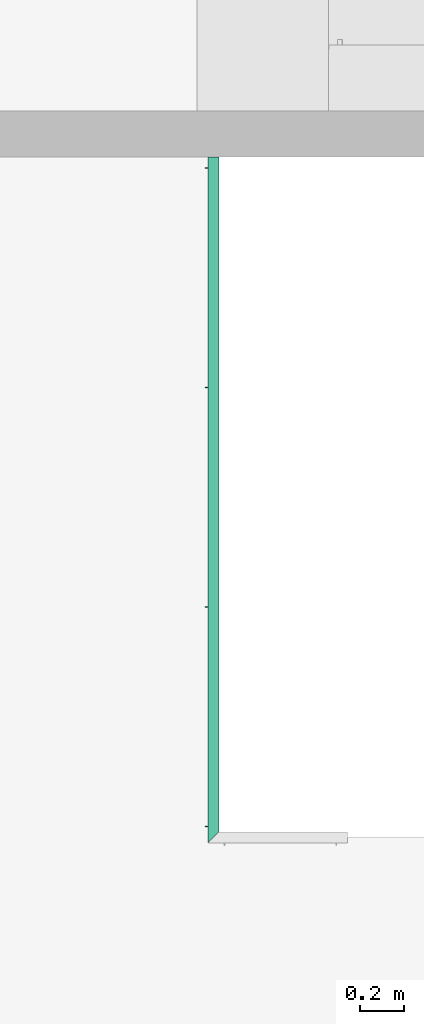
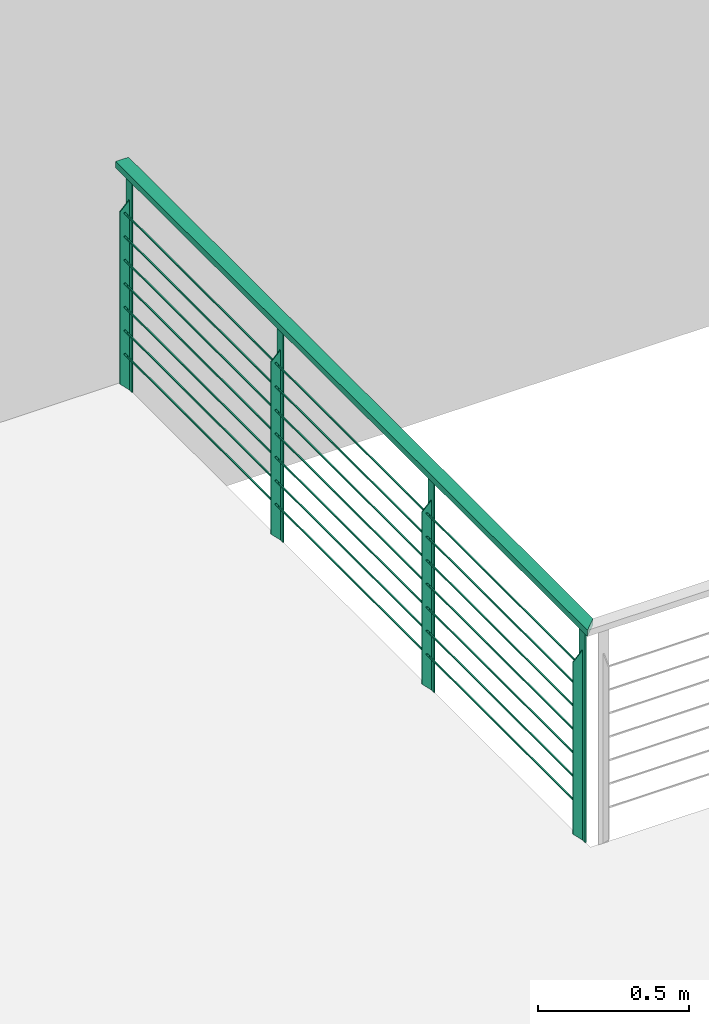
# One storey, part 19 of 26: 1 distribution element.
"""IFC2X3 building model written with IfcOpenShell, lengths in millimetres."""

from ifc_helpers import new_model, entity, si_unit, converted_unit, money_unit, direction, frame, origin_with_axes, place, context, subcontext, project, spatial, faceted_brep, material, type_object, element, save


model = new_model("IFC2X3")

# Units and contexts
model_context = context("Model", 3, precision=1e-05, world=origin_with_axes(), true_north=direction((0.0, 1.0)))
body_context = subcontext(model_context, "Body", "Model", "MODEL_VIEW")
ifc_project = project(units=[si_unit("LENGTHUNIT", "METRE", prefix="MILLI"), si_unit("AREAUNIT", "SQUARE_METRE"), si_unit("VOLUMEUNIT", "CUBIC_METRE"), converted_unit("PLANEANGLEUNIT", "DEGREE", entity("IfcPlaneAngleMeasure", 0.0174532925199), si_unit("PLANEANGLEUNIT", "RADIAN"), dimensions=[0, 0, 0, 0, 0, 0, 0]), si_unit("SOLIDANGLEUNIT", "STERADIAN"), money_unit("USD"), converted_unit("TIMEUNIT", "Year", entity("IfcTimeMeasure", 31556926.0), si_unit("TIMEUNIT", "SECOND"), dimensions=[0, 0, 0, 0, 0, 0, 0]), si_unit("MASSUNIT", "GRAM"), si_unit("THERMODYNAMICTEMPERATUREUNIT", "DEGREE_CELSIUS"), si_unit("LUMINOUSINTENSITYUNIT", "LUMEN")], contexts=[model_context])

# Site, building, storey
site_placement = place(None, origin_with_axes())
site = spatial("IfcSite", under=ifc_project, at=site_placement, Name="Grove Residential", CompositionType="ELEMENT")
building_placement = place(site_placement, origin_with_axes())
building = spatial("IfcBuilding", under=site, at=building_placement, Name="Building", CompositionType="ELEMENT")
storey_placement = place(building_placement, origin_with_axes())
storey = spatial("IfcBuildingStorey", under=building, at=storey_placement, Name="Ground Floor", CompositionType="ELEMENT", Elevation=0.0)

# Distribution element
ifc_material = material(Name="Background")
distribution_element_type = type_object("IfcDistributionElementType", Name="Rail Wired 02 20")
distribution_element_placement = place(storey_placement, frame((3674.99991575, 6850.0, 0.0), z_axis=(0.0, 0.0, 1.0), x_axis=(0.0, -1.0, 0.0)))
element("IfcDistributionElement", 1, at=distribution_element_placement, inside=storey, type_object=distribution_element_type, material=ifc_material, Name="FU - 001", context=body_context, shape_type="Brep", body=[
    faceted_brep([(0.0, 25.0, 875.0), (0.0, -25.0, 875.0), (0.0, -25.0, 900.0), (0.0, 25.0, 900.0), (3075.00003278, 25.0, 875.0), (3125.00003278, -25.0, 875.0), (3125.00003278, -25.0, 875.0), (3125.00003278, -25.0, 900.0), (3125.00003278, -25.0, 900.0), (3075.00003278, 25.0, 900.0)], [[[0, 1, 2, 3]], [[0, 4, 5, 6, 1]], [[1, 6, 7, 2]], [[3, 2, 7, 8, 9]], [[4, 0, 3, 9]], [[5, 4, 9, 8]], [[6, 5, 8, 7]]]),
    faceted_brep([(30.0, -2.0, 0.0), (70.0, -2.0, 0.0), (70.0, -2.0, 871.0), (30.0, -2.0, 871.0), (30.0, 2.0, 0.0), (70.0, 2.0, 0.0), (70.0, 2.0, 871.0), (30.0, 2.0, 871.0)], [[[0, 1, 2, 3]], [[0, 4, 5, 1]], [[1, 5, 6, 2]], [[3, 2, 6, 7]], [[4, 0, 3, 7]], [[5, 4, 7, 6]]]),
    faceted_brep([(52.0, -38.0, 36.0), (52.0, -38.0, 731.0), (48.0, -38.0, 731.0), (48.0, -38.0, 36.0), (52.0, -2.0, 0.0), (52.0, -2.0, 767.0), (48.0, -2.0, 767.0), (48.0, -2.0, 0.0)], [[[0, 1, 2, 3]], [[0, 4, 5, 1]], [[1, 5, 6, 2]], [[3, 2, 6, 7]], [[4, 0, 3, 7]], [[5, 4, 7, 6]]]),
    faceted_brep([(1030.00001093, -2.0, 0.0), (1070.00001093, -2.0, 0.0), (1070.00001093, -2.0, 871.0), (1030.00001093, -2.0, 871.0), (1030.00001093, 2.0, 0.0), (1070.00001093, 2.0, 0.0), (1070.00001093, 2.0, 871.0), (1030.00001093, 2.0, 871.0)], [[[0, 1, 2, 3]], [[0, 4, 5, 1]], [[1, 5, 6, 2]], [[3, 2, 6, 7]], [[4, 0, 3, 7]], [[5, 4, 7, 6]]]),
    faceted_brep([(1052.00001093, -38.0, 36.0), (1052.00001093, -38.0, 731.0), (1048.00001093, -38.0, 731.0), (1048.00001093, -38.0, 36.0), (1052.00001093, -2.0, 0.0), (1052.00001093, -2.0, 767.0), (1048.00001093, -2.0, 767.0), (1048.00001093, -2.0, 0.0)], [[[0, 1, 2, 3]], [[0, 4, 5, 1]], [[1, 5, 6, 2]], [[3, 2, 6, 7]], [[4, 0, 3, 7]], [[5, 4, 7, 6]]]),
    faceted_brep([(2030.00002186, -2.0, 0.0), (2070.00002186, -2.0, 0.0), (2070.00002186, -2.0, 871.0), (2030.00002186, -2.0, 871.0), (2030.00002186, 2.0, 0.0), (2070.00002186, 2.0, 0.0), (2070.00002186, 2.0, 871.0), (2030.00002186, 2.0, 871.0)], [[[0, 1, 2, 3]], [[0, 4, 5, 1]], [[1, 5, 6, 2]], [[3, 2, 6, 7]], [[4, 0, 3, 7]], [[5, 4, 7, 6]]]),
    faceted_brep([(2052.00002186, -38.0, 36.0), (2052.00002186, -38.0, 731.0), (2048.00002186, -38.0, 731.0), (2048.00002186, -38.0, 36.0), (2052.00002186, -2.0, 0.0), (2052.00002186, -2.0, 767.0), (2048.00002186, -2.0, 767.0), (2048.00002186, -2.0, 0.0)], [[[0, 1, 2, 3]], [[0, 4, 5, 1]], [[1, 5, 6, 2]], [[3, 2, 6, 7]], [[4, 0, 3, 7]], [[5, 4, 7, 6]]]),
    faceted_brep([(3030.00003278, -2.0, 0.0), (3070.00003278, -2.0, 0.0), (3070.00003278, -2.0, 871.0), (3030.00003278, -2.0, 871.0), (3030.00003278, 2.0, 0.0), (3070.00003278, 2.0, 0.0), (3070.00003278, 2.0, 871.0), (3030.00003278, 2.0, 871.0)], [[[0, 1, 2, 3]], [[0, 4, 5, 1]], [[1, 5, 6, 2]], [[3, 2, 6, 7]], [[4, 0, 3, 7]], [[5, 4, 7, 6]]]),
    faceted_brep([(3052.00003278, -38.0, 36.0), (3052.00003278, -38.0, 731.0), (3048.00003278, -38.0, 731.0), (3048.00003278, -38.0, 36.0), (3052.00003278, -2.0, 0.0), (3052.00003278, -2.0, 767.0), (3048.00003278, -2.0, 767.0), (3048.00003278, -2.0, 0.0)], [[[0, 1, 2, 3]], [[0, 4, 5, 1]], [[1, 5, 6, 2]], [[3, 2, 6, 7]], [[4, 0, 3, 7]], [[5, 4, 7, 6]]]),
    faceted_brep([(20.0, -15.0, 871.0), (80.0, -15.0, 871.0), (80.0, -15.0, 875.0), (20.0, -15.0, 875.0), (20.0, 15.0, 871.0), (80.0, 15.0, 871.0), (80.0, 15.0, 875.0), (20.0, 15.0, 875.0)], [[[0, 1, 2, 3]], [[0, 4, 5, 1]], [[1, 5, 6, 2]], [[3, 2, 6, 7]], [[4, 0, 3, 7]], [[5, 4, 7, 6]]]),
    faceted_brep([(1020.00001093, -15.0, 871.0), (1080.00001093, -15.0, 871.0), (1080.00001093, -15.0, 875.0), (1020.00001093, -15.0, 875.0), (1020.00001093, 15.0, 871.0), (1080.00001093, 15.0, 871.0), (1080.00001093, 15.0, 875.0), (1020.00001093, 15.0, 875.0)], [[[0, 1, 2, 3]], [[0, 4, 5, 1]], [[1, 5, 6, 2]], [[3, 2, 6, 7]], [[4, 0, 3, 7]], [[5, 4, 7, 6]]]),
    faceted_brep([(2020.00002186, -15.0, 871.0), (2080.00002186, -15.0, 871.0), (2080.00002186, -15.0, 875.0), (2020.00002186, -15.0, 875.0), (2020.00002186, 15.0, 871.0), (2080.00002186, 15.0, 871.0), (2080.00002186, 15.0, 875.0), (2020.00002186, 15.0, 875.0)], [[[0, 1, 2, 3]], [[0, 4, 5, 1]], [[1, 5, 6, 2]], [[3, 2, 6, 7]], [[4, 0, 3, 7]], [[5, 4, 7, 6]]]),
    faceted_brep([(3020.00003278, -15.0, 871.0), (3080.00003278, -15.0, 871.0), (3080.00003278, -15.0, 875.0), (3020.00003278, -15.0, 875.0), (3020.00003278, 15.0, 871.0), (3080.00003278, 15.0, 871.0), (3080.00003278, 15.0, 875.0), (3020.00003278, 15.0, 875.0)], [[[0, 1, 2, 3]], [[0, 4, 5, 1]], [[1, 5, 6, 2]], [[3, 2, 6, 7]], [[4, 0, 3, 7]], [[5, 4, 7, 6]]]),
    faceted_brep([(3030.00003278, -22.0, 155.0), (3030.00003278, -18.0, 155.0), (3050.00003278, -18.0, 155.0), (3050.00003278, -17.5, 155.0), (50.0, -17.5, 155.0), (50.0, -18.0, 155.0), (70.0, -18.0, 155.0), (70.0, -22.0, 155.0), (52.0, -22.0, 155.0), (52.0, -22.5, 155.0), (1048.00001093, -22.5, 155.0), (1048.00001093, -22.0, 155.0), (1030.00001093, -22.0, 155.0), (1030.00001093, -18.0, 155.0), (1070.00001093, -18.0, 155.0), (1070.00001093, -22.0, 155.0), (1052.00001093, -22.0, 155.0), (1052.00001093, -22.5, 155.0), (2048.00002186, -22.5, 155.0), (2048.00002186, -22.0, 155.0), (2030.00002186, -22.0, 155.0), (2030.00002186, -18.0, 155.0), (2070.00002186, -18.0, 155.0), (2070.00002186, -22.0, 155.0), (2052.00002186, -22.0, 155.0), (2052.00002186, -22.5, 155.0), (3048.00003278, -22.5, 155.0), (3048.00003278, -22.0, 155.0), (3030.00003278, -22.0, 150.0), (3030.00003278, -18.0, 150.0), (3050.00003278, -18.0, 150.0), (3050.00003278, -17.5, 150.0), (50.0, -17.5, 150.0), (50.0, -18.0, 150.0), (70.0, -18.0, 150.0), (70.0, -22.0, 150.0), (52.0, -22.0, 150.0), (52.0, -22.5, 150.0), (1048.00001093, -22.5, 150.0), (1048.00001093, -22.0, 150.0), (1030.00001093, -22.0, 150.0), (1030.00001093, -18.0, 150.0), (1070.00001093, -18.0, 150.0), (1070.00001093, -22.0, 150.0), (1052.00001093, -22.0, 150.0), (1052.00001093, -22.5, 150.0), (2048.00002186, -22.5, 150.0), (2048.00002186, -22.0, 150.0), (2030.00002186, -22.0, 150.0), (2030.00002186, -18.0, 150.0), (2070.00002186, -18.0, 150.0), (2070.00002186, -22.0, 150.0), (2052.00002186, -22.0, 150.0), (2052.00002186, -22.5, 150.0), (3048.00003278, -22.5, 150.0), (3048.00003278, -22.0, 150.0)], [[[0, 1, 2, 3, 4, 5, 6, 7, 8, 9, 10, 11, 12, 13, 14, 15, 16, 17, 18, 19, 20, 21, 22, 23, 24, 25, 26, 27]], [[1, 0, 28, 29]], [[30, 2, 1, 29]], [[2, 30, 31, 3]], [[3, 31, 32, 4]], [[33, 5, 4, 32]], [[6, 5, 33, 34]], [[7, 6, 34, 35]], [[36, 8, 7, 35]], [[9, 8, 36, 37]], [[38, 10, 9, 37]], [[39, 11, 10, 38]], [[11, 39, 40, 12]], [[13, 12, 40, 41]], [[14, 13, 41, 42]], [[15, 14, 42, 43]], [[44, 16, 15, 43]], [[17, 16, 44, 45]], [[46, 18, 17, 45]], [[47, 19, 18, 46]], [[19, 47, 48, 20]], [[21, 20, 48, 49]], [[22, 21, 49, 50]], [[23, 22, 50, 51]], [[52, 24, 23, 51]], [[25, 24, 52, 53]], [[25, 53, 54, 26]], [[55, 27, 26, 54]], [[0, 27, 55, 28]], [[28, 55, 54, 53, 52, 51, 50, 49, 48, 47, 46, 45, 44, 43, 42, 41, 40, 39, 38, 37, 36, 35, 34, 33, 32, 31, 30, 29]]]),
    faceted_brep([(3030.00003278, -22.0, 250.0), (3030.00003278, -18.0, 250.0), (3050.00003278, -18.0, 250.0), (3050.00003278, -17.5, 250.0), (50.0, -17.5, 250.0), (50.0, -18.0, 250.0), (70.0, -18.0, 250.0), (70.0, -22.0, 250.0), (52.0, -22.0, 250.0), (52.0, -22.5, 250.0), (1048.00001093, -22.5, 250.0), (1048.00001093, -22.0, 250.0), (1030.00001093, -22.0, 250.0), (1030.00001093, -18.0, 250.0), (1070.00001093, -18.0, 250.0), (1070.00001093, -22.0, 250.0), (1052.00001093, -22.0, 250.0), (1052.00001093, -22.5, 250.0), (2048.00002186, -22.5, 250.0), (2048.00002186, -22.0, 250.0), (2030.00002186, -22.0, 250.0), (2030.00002186, -18.0, 250.0), (2070.00002186, -18.0, 250.0), (2070.00002186, -22.0, 250.0), (2052.00002186, -22.0, 250.0), (2052.00002186, -22.5, 250.0), (3048.00003278, -22.5, 250.0), (3048.00003278, -22.0, 250.0), (3030.00003278, -22.0, 245.0), (3030.00003278, -18.0, 245.0), (3050.00003278, -18.0, 245.0), (3050.00003278, -17.5, 245.0), (50.0, -17.5, 245.0), (50.0, -18.0, 245.0), (70.0, -18.0, 245.0), (70.0, -22.0, 245.0), (52.0, -22.0, 245.0), (52.0, -22.5, 245.0), (1048.00001093, -22.5, 245.0), (1048.00001093, -22.0, 245.0), (1030.00001093, -22.0, 245.0), (1030.00001093, -18.0, 245.0), (1070.00001093, -18.0, 245.0), (1070.00001093, -22.0, 245.0), (1052.00001093, -22.0, 245.0), (1052.00001093, -22.5, 245.0), (2048.00002186, -22.5, 245.0), (2048.00002186, -22.0, 245.0), (2030.00002186, -22.0, 245.0), (2030.00002186, -18.0, 245.0), (2070.00002186, -18.0, 245.0), (2070.00002186, -22.0, 245.0), (2052.00002186, -22.0, 245.0), (2052.00002186, -22.5, 245.0), (3048.00003278, -22.5, 245.0), (3048.00003278, -22.0, 245.0)], [[[0, 1, 2, 3, 4, 5, 6, 7, 8, 9, 10, 11, 12, 13, 14, 15, 16, 17, 18, 19, 20, 21, 22, 23, 24, 25, 26, 27]], [[1, 0, 28, 29]], [[30, 2, 1, 29]], [[2, 30, 31, 3]], [[3, 31, 32, 4]], [[33, 5, 4, 32]], [[6, 5, 33, 34]], [[7, 6, 34, 35]], [[36, 8, 7, 35]], [[9, 8, 36, 37]], [[38, 10, 9, 37]], [[39, 11, 10, 38]], [[11, 39, 40, 12]], [[13, 12, 40, 41]], [[14, 13, 41, 42]], [[15, 14, 42, 43]], [[44, 16, 15, 43]], [[17, 16, 44, 45]], [[46, 18, 17, 45]], [[47, 19, 18, 46]], [[19, 47, 48, 20]], [[21, 20, 48, 49]], [[22, 21, 49, 50]], [[23, 22, 50, 51]], [[52, 24, 23, 51]], [[25, 24, 52, 53]], [[25, 53, 54, 26]], [[55, 27, 26, 54]], [[0, 27, 55, 28]], [[28, 55, 54, 53, 52, 51, 50, 49, 48, 47, 46, 45, 44, 43, 42, 41, 40, 39, 38, 37, 36, 35, 34, 33, 32, 31, 30, 29]]]),
    faceted_brep([(3030.00003278, -22.0, 345.0), (3030.00003278, -18.0, 345.0), (3050.00003278, -18.0, 345.0), (3050.00003278, -17.5, 345.0), (50.0, -17.5, 345.0), (50.0, -18.0, 345.0), (70.0, -18.0, 345.0), (70.0, -22.0, 345.0), (52.0, -22.0, 345.0), (52.0, -22.5, 345.0), (1048.00001093, -22.5, 345.0), (1048.00001093, -22.0, 345.0), (1030.00001093, -22.0, 345.0), (1030.00001093, -18.0, 345.0), (1070.00001093, -18.0, 345.0), (1070.00001093, -22.0, 345.0), (1052.00001093, -22.0, 345.0), (1052.00001093, -22.5, 345.0), (2048.00002186, -22.5, 345.0), (2048.00002186, -22.0, 345.0), (2030.00002186, -22.0, 345.0), (2030.00002186, -18.0, 345.0), (2070.00002186, -18.0, 345.0), (2070.00002186, -22.0, 345.0), (2052.00002186, -22.0, 345.0), (2052.00002186, -22.5, 345.0), (3048.00003278, -22.5, 345.0), (3048.00003278, -22.0, 345.0), (3030.00003278, -22.0, 340.0), (3030.00003278, -18.0, 340.0), (3050.00003278, -18.0, 340.0), (3050.00003278, -17.5, 340.0), (50.0, -17.5, 340.0), (50.0, -18.0, 340.0), (70.0, -18.0, 340.0), (70.0, -22.0, 340.0), (52.0, -22.0, 340.0), (52.0, -22.5, 340.0), (1048.00001093, -22.5, 340.0), (1048.00001093, -22.0, 340.0), (1030.00001093, -22.0, 340.0), (1030.00001093, -18.0, 340.0), (1070.00001093, -18.0, 340.0), (1070.00001093, -22.0, 340.0), (1052.00001093, -22.0, 340.0), (1052.00001093, -22.5, 340.0), (2048.00002186, -22.5, 340.0), (2048.00002186, -22.0, 340.0), (2030.00002186, -22.0, 340.0), (2030.00002186, -18.0, 340.0), (2070.00002186, -18.0, 340.0), (2070.00002186, -22.0, 340.0), (2052.00002186, -22.0, 340.0), (2052.00002186, -22.5, 340.0), (3048.00003278, -22.5, 340.0), (3048.00003278, -22.0, 340.0)], [[[0, 1, 2, 3, 4, 5, 6, 7, 8, 9, 10, 11, 12, 13, 14, 15, 16, 17, 18, 19, 20, 21, 22, 23, 24, 25, 26, 27]], [[1, 0, 28, 29]], [[30, 2, 1, 29]], [[2, 30, 31, 3]], [[3, 31, 32, 4]], [[33, 5, 4, 32]], [[6, 5, 33, 34]], [[7, 6, 34, 35]], [[36, 8, 7, 35]], [[9, 8, 36, 37]], [[38, 10, 9, 37]], [[39, 11, 10, 38]], [[11, 39, 40, 12]], [[13, 12, 40, 41]], [[14, 13, 41, 42]], [[15, 14, 42, 43]], [[44, 16, 15, 43]], [[17, 16, 44, 45]], [[46, 18, 17, 45]], [[47, 19, 18, 46]], [[19, 47, 48, 20]], [[21, 20, 48, 49]], [[22, 21, 49, 50]], [[23, 22, 50, 51]], [[52, 24, 23, 51]], [[25, 24, 52, 53]], [[25, 53, 54, 26]], [[55, 27, 26, 54]], [[0, 27, 55, 28]], [[28, 55, 54, 53, 52, 51, 50, 49, 48, 47, 46, 45, 44, 43, 42, 41, 40, 39, 38, 37, 36, 35, 34, 33, 32, 31, 30, 29]]]),
    faceted_brep([(3030.00003278, -22.0, 440.0), (3030.00003278, -18.0, 440.0), (3050.00003278, -18.0, 440.0), (3050.00003278, -17.5, 440.0), (50.0, -17.5, 440.0), (50.0, -18.0, 440.0), (70.0, -18.0, 440.0), (70.0, -22.0, 440.0), (52.0, -22.0, 440.0), (52.0, -22.5, 440.0), (1048.00001093, -22.5, 440.0), (1048.00001093, -22.0, 440.0), (1030.00001093, -22.0, 440.0), (1030.00001093, -18.0, 440.0), (1070.00001093, -18.0, 440.0), (1070.00001093, -22.0, 440.0), (1052.00001093, -22.0, 440.0), (1052.00001093, -22.5, 440.0), (2048.00002186, -22.5, 440.0), (2048.00002186, -22.0, 440.0), (2030.00002186, -22.0, 440.0), (2030.00002186, -18.0, 440.0), (2070.00002186, -18.0, 440.0), (2070.00002186, -22.0, 440.0), (2052.00002186, -22.0, 440.0), (2052.00002186, -22.5, 440.0), (3048.00003278, -22.5, 440.0), (3048.00003278, -22.0, 440.0), (3030.00003278, -22.0, 435.0), (3030.00003278, -18.0, 435.0), (3050.00003278, -18.0, 435.0), (3050.00003278, -17.5, 435.0), (50.0, -17.5, 435.0), (50.0, -18.0, 435.0), (70.0, -18.0, 435.0), (70.0, -22.0, 435.0), (52.0, -22.0, 435.0), (52.0, -22.5, 435.0), (1048.00001093, -22.5, 435.0), (1048.00001093, -22.0, 435.0), (1030.00001093, -22.0, 435.0), (1030.00001093, -18.0, 435.0), (1070.00001093, -18.0, 435.0), (1070.00001093, -22.0, 435.0), (1052.00001093, -22.0, 435.0), (1052.00001093, -22.5, 435.0), (2048.00002186, -22.5, 435.0), (2048.00002186, -22.0, 435.0), (2030.00002186, -22.0, 435.0), (2030.00002186, -18.0, 435.0), (2070.00002186, -18.0, 435.0), (2070.00002186, -22.0, 435.0), (2052.00002186, -22.0, 435.0), (2052.00002186, -22.5, 435.0), (3048.00003278, -22.5, 435.0), (3048.00003278, -22.0, 435.0)], [[[0, 1, 2, 3, 4, 5, 6, 7, 8, 9, 10, 11, 12, 13, 14, 15, 16, 17, 18, 19, 20, 21, 22, 23, 24, 25, 26, 27]], [[1, 0, 28, 29]], [[30, 2, 1, 29]], [[2, 30, 31, 3]], [[3, 31, 32, 4]], [[33, 5, 4, 32]], [[6, 5, 33, 34]], [[7, 6, 34, 35]], [[36, 8, 7, 35]], [[9, 8, 36, 37]], [[38, 10, 9, 37]], [[39, 11, 10, 38]], [[11, 39, 40, 12]], [[13, 12, 40, 41]], [[14, 13, 41, 42]], [[15, 14, 42, 43]], [[44, 16, 15, 43]], [[17, 16, 44, 45]], [[46, 18, 17, 45]], [[47, 19, 18, 46]], [[19, 47, 48, 20]], [[21, 20, 48, 49]], [[22, 21, 49, 50]], [[23, 22, 50, 51]], [[52, 24, 23, 51]], [[25, 24, 52, 53]], [[25, 53, 54, 26]], [[55, 27, 26, 54]], [[0, 27, 55, 28]], [[28, 55, 54, 53, 52, 51, 50, 49, 48, 47, 46, 45, 44, 43, 42, 41, 40, 39, 38, 37, 36, 35, 34, 33, 32, 31, 30, 29]]]),
    faceted_brep([(3030.00003278, -22.0, 535.0), (3030.00003278, -18.0, 535.0), (3050.00003278, -18.0, 535.0), (3050.00003278, -17.5, 535.0), (50.0, -17.5, 535.0), (50.0, -18.0, 535.0), (70.0, -18.0, 535.0), (70.0, -22.0, 535.0), (52.0, -22.0, 535.0), (52.0, -22.5, 535.0), (1048.00001093, -22.5, 535.0), (1048.00001093, -22.0, 535.0), (1030.00001093, -22.0, 535.0), (1030.00001093, -18.0, 535.0), (1070.00001093, -18.0, 535.0), (1070.00001093, -22.0, 535.0), (1052.00001093, -22.0, 535.0), (1052.00001093, -22.5, 535.0), (2048.00002186, -22.5, 535.0), (2048.00002186, -22.0, 535.0), (2030.00002186, -22.0, 535.0), (2030.00002186, -18.0, 535.0), (2070.00002186, -18.0, 535.0), (2070.00002186, -22.0, 535.0), (2052.00002186, -22.0, 535.0), (2052.00002186, -22.5, 535.0), (3048.00003278, -22.5, 535.0), (3048.00003278, -22.0, 535.0), (3030.00003278, -22.0, 530.0), (3030.00003278, -18.0, 530.0), (3050.00003278, -18.0, 530.0), (3050.00003278, -17.5, 530.0), (50.0, -17.5, 530.0), (50.0, -18.0, 530.0), (70.0, -18.0, 530.0), (70.0, -22.0, 530.0), (52.0, -22.0, 530.0), (52.0, -22.5, 530.0), (1048.00001093, -22.5, 530.0), (1048.00001093, -22.0, 530.0), (1030.00001093, -22.0, 530.0), (1030.00001093, -18.0, 530.0), (1070.00001093, -18.0, 530.0), (1070.00001093, -22.0, 530.0), (1052.00001093, -22.0, 530.0), (1052.00001093, -22.5, 530.0), (2048.00002186, -22.5, 530.0), (2048.00002186, -22.0, 530.0), (2030.00002186, -22.0, 530.0), (2030.00002186, -18.0, 530.0), (2070.00002186, -18.0, 530.0), (2070.00002186, -22.0, 530.0), (2052.00002186, -22.0, 530.0), (2052.00002186, -22.5, 530.0), (3048.00003278, -22.5, 530.0), (3048.00003278, -22.0, 530.0)], [[[0, 1, 2, 3, 4, 5, 6, 7, 8, 9, 10, 11, 12, 13, 14, 15, 16, 17, 18, 19, 20, 21, 22, 23, 24, 25, 26, 27]], [[1, 0, 28, 29]], [[30, 2, 1, 29]], [[2, 30, 31, 3]], [[3, 31, 32, 4]], [[33, 5, 4, 32]], [[6, 5, 33, 34]], [[7, 6, 34, 35]], [[36, 8, 7, 35]], [[9, 8, 36, 37]], [[38, 10, 9, 37]], [[39, 11, 10, 38]], [[11, 39, 40, 12]], [[13, 12, 40, 41]], [[14, 13, 41, 42]], [[15, 14, 42, 43]], [[44, 16, 15, 43]], [[17, 16, 44, 45]], [[46, 18, 17, 45]], [[47, 19, 18, 46]], [[19, 47, 48, 20]], [[21, 20, 48, 49]], [[22, 21, 49, 50]], [[23, 22, 50, 51]], [[52, 24, 23, 51]], [[25, 24, 52, 53]], [[25, 53, 54, 26]], [[55, 27, 26, 54]], [[0, 27, 55, 28]], [[28, 55, 54, 53, 52, 51, 50, 49, 48, 47, 46, 45, 44, 43, 42, 41, 40, 39, 38, 37, 36, 35, 34, 33, 32, 31, 30, 29]]]),
    faceted_brep([(3030.00003278, -22.0, 630.0), (3030.00003278, -18.0, 630.0), (3050.00003278, -18.0, 630.0), (3050.00003278, -17.5, 630.0), (50.0, -17.5, 630.0), (50.0, -18.0, 630.0), (70.0, -18.0, 630.0), (70.0, -22.0, 630.0), (52.0, -22.0, 630.0), (52.0, -22.5, 630.0), (1048.00001093, -22.5, 630.0), (1048.00001093, -22.0, 630.0), (1030.00001093, -22.0, 630.0), (1030.00001093, -18.0, 630.0), (1070.00001093, -18.0, 630.0), (1070.00001093, -22.0, 630.0), (1052.00001093, -22.0, 630.0), (1052.00001093, -22.5, 630.0), (2048.00002186, -22.5, 630.0), (2048.00002186, -22.0, 630.0), (2030.00002186, -22.0, 630.0), (2030.00002186, -18.0, 630.0), (2070.00002186, -18.0, 630.0), (2070.00002186, -22.0, 630.0), (2052.00002186, -22.0, 630.0), (2052.00002186, -22.5, 630.0), (3048.00003278, -22.5, 630.0), (3048.00003278, -22.0, 630.0), (3030.00003278, -22.0, 625.0), (3030.00003278, -18.0, 625.0), (3050.00003278, -18.0, 625.0), (3050.00003278, -17.5, 625.0), (50.0, -17.5, 625.0), (50.0, -18.0, 625.0), (70.0, -18.0, 625.0), (70.0, -22.0, 625.0), (52.0, -22.0, 625.0), (52.0, -22.5, 625.0), (1048.00001093, -22.5, 625.0), (1048.00001093, -22.0, 625.0), (1030.00001093, -22.0, 625.0), (1030.00001093, -18.0, 625.0), (1070.00001093, -18.0, 625.0), (1070.00001093, -22.0, 625.0), (1052.00001093, -22.0, 625.0), (1052.00001093, -22.5, 625.0), (2048.00002186, -22.5, 625.0), (2048.00002186, -22.0, 625.0), (2030.00002186, -22.0, 625.0), (2030.00002186, -18.0, 625.0), (2070.00002186, -18.0, 625.0), (2070.00002186, -22.0, 625.0), (2052.00002186, -22.0, 625.0), (2052.00002186, -22.5, 625.0), (3048.00003278, -22.5, 625.0), (3048.00003278, -22.0, 625.0)], [[[0, 1, 2, 3, 4, 5, 6, 7, 8, 9, 10, 11, 12, 13, 14, 15, 16, 17, 18, 19, 20, 21, 22, 23, 24, 25, 26, 27]], [[1, 0, 28, 29]], [[30, 2, 1, 29]], [[2, 30, 31, 3]], [[3, 31, 32, 4]], [[33, 5, 4, 32]], [[6, 5, 33, 34]], [[7, 6, 34, 35]], [[36, 8, 7, 35]], [[9, 8, 36, 37]], [[38, 10, 9, 37]], [[39, 11, 10, 38]], [[11, 39, 40, 12]], [[13, 12, 40, 41]], [[14, 13, 41, 42]], [[15, 14, 42, 43]], [[44, 16, 15, 43]], [[17, 16, 44, 45]], [[46, 18, 17, 45]], [[47, 19, 18, 46]], [[19, 47, 48, 20]], [[21, 20, 48, 49]], [[22, 21, 49, 50]], [[23, 22, 50, 51]], [[52, 24, 23, 51]], [[25, 24, 52, 53]], [[25, 53, 54, 26]], [[55, 27, 26, 54]], [[0, 27, 55, 28]], [[28, 55, 54, 53, 52, 51, 50, 49, 48, 47, 46, 45, 44, 43, 42, 41, 40, 39, 38, 37, 36, 35, 34, 33, 32, 31, 30, 29]]]),
    faceted_brep([(3030.00003278, -22.0, 725.0), (3030.00003278, -18.0, 725.0), (3050.00003278, -18.0, 725.0), (3050.00003278, -17.5, 725.0), (50.0, -17.5, 725.0), (50.0, -18.0, 725.0), (70.0, -18.0, 725.0), (70.0, -22.0, 725.0), (52.0, -22.0, 725.0), (52.0, -22.5, 725.0), (1048.00001093, -22.5, 725.0), (1048.00001093, -22.0, 725.0), (1030.00001093, -22.0, 725.0), (1030.00001093, -18.0, 725.0), (1070.00001093, -18.0, 725.0), (1070.00001093, -22.0, 725.0), (1052.00001093, -22.0, 725.0), (1052.00001093, -22.5, 725.0), (2048.00002186, -22.5, 725.0), (2048.00002186, -22.0, 725.0), (2030.00002186, -22.0, 725.0), (2030.00002186, -18.0, 725.0), (2070.00002186, -18.0, 725.0), (2070.00002186, -22.0, 725.0), (2052.00002186, -22.0, 725.0), (2052.00002186, -22.5, 725.0), (3048.00003278, -22.5, 725.0), (3048.00003278, -22.0, 725.0), (3030.00003278, -22.0, 720.0), (3030.00003278, -18.0, 720.0), (3050.00003278, -18.0, 720.0), (3050.00003278, -17.5, 720.0), (50.0, -17.5, 720.0), (50.0, -18.0, 720.0), (70.0, -18.0, 720.0), (70.0, -22.0, 720.0), (52.0, -22.0, 720.0), (52.0, -22.5, 720.0), (1048.00001093, -22.5, 720.0), (1048.00001093, -22.0, 720.0), (1030.00001093, -22.0, 720.0), (1030.00001093, -18.0, 720.0), (1070.00001093, -18.0, 720.0), (1070.00001093, -22.0, 720.0), (1052.00001093, -22.0, 720.0), (1052.00001093, -22.5, 720.0), (2048.00002186, -22.5, 720.0), (2048.00002186, -22.0, 720.0), (2030.00002186, -22.0, 720.0), (2030.00002186, -18.0, 720.0), (2070.00002186, -18.0, 720.0), (2070.00002186, -22.0, 720.0), (2052.00002186, -22.0, 720.0), (2052.00002186, -22.5, 720.0), (3048.00003278, -22.5, 720.0), (3048.00003278, -22.0, 720.0)], [[[0, 1, 2, 3, 4, 5, 6, 7, 8, 9, 10, 11, 12, 13, 14, 15, 16, 17, 18, 19, 20, 21, 22, 23, 24, 25, 26, 27]], [[1, 0, 28, 29]], [[30, 2, 1, 29]], [[2, 30, 31, 3]], [[3, 31, 32, 4]], [[33, 5, 4, 32]], [[6, 5, 33, 34]], [[7, 6, 34, 35]], [[36, 8, 7, 35]], [[9, 8, 36, 37]], [[38, 10, 9, 37]], [[39, 11, 10, 38]], [[11, 39, 40, 12]], [[13, 12, 40, 41]], [[14, 13, 41, 42]], [[15, 14, 42, 43]], [[44, 16, 15, 43]], [[17, 16, 44, 45]], [[46, 18, 17, 45]], [[47, 19, 18, 46]], [[19, 47, 48, 20]], [[21, 20, 48, 49]], [[22, 21, 49, 50]], [[23, 22, 50, 51]], [[52, 24, 23, 51]], [[25, 24, 52, 53]], [[25, 53, 54, 26]], [[55, 27, 26, 54]], [[0, 27, 55, 28]], [[28, 55, 54, 53, 52, 51, 50, 49, 48, 47, 46, 45, 44, 43, 42, 41, 40, 39, 38, 37, 36, 35, 34, 33, 32, 31, 30, 29]]]),
])

save(model, "model.ifc")
